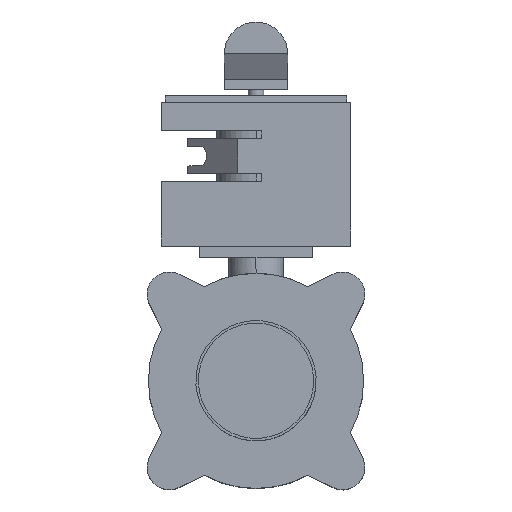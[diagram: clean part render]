
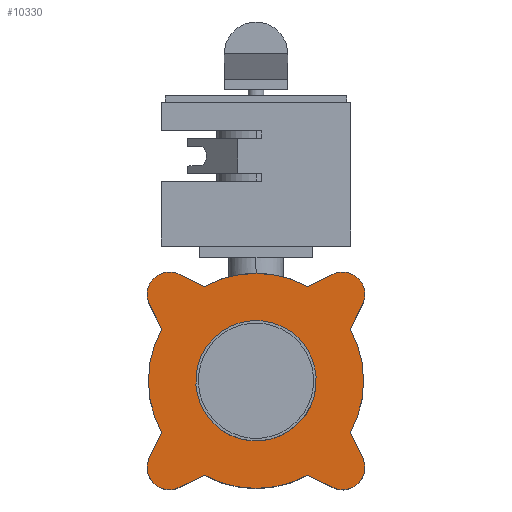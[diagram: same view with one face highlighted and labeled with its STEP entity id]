
A CAD part, top view. The second image highlights one B-rep face of the part: STEP entity #10330.
In plain terms, the highlighted planar face has unit normal (0, 0, 1) as drawn and (0, 1, 0) by its records, which use the part's own axes.
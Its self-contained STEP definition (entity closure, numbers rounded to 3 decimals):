
#1650=CARTESIAN_POINT('',(0.,13.,-41.492));
#1660=DIRECTION('',(-0.946,0.,0.326));
#1670=VECTOR('',#1660,1.);
#1680=LINE('',#1650,#1670);
#1690=CARTESIAN_POINT('',(-65.288,13.,-19.012));
#1700=VERTEX_POINT('',#1690);
#1710=CARTESIAN_POINT('',(-82.058,13.,-13.237));
#1720=VERTEX_POINT('',#1710);
#1730=EDGE_CURVE('',#1700,#1720,#1680,.T.);
#1960=CARTESIAN_POINT('',(77.5,13.,0.));
#1970=DIRECTION('',(0.,-1.,0.));
#1980=DIRECTION('',(0.,0.,-1.));
#1990=AXIS2_PLACEMENT_3D('',#1960,#1970,#1980);
#2000=CIRCLE('',#1990,14.);
#2010=CARTESIAN_POINT('',(82.058,13.,-13.237));
#2020=VERTEX_POINT('',#2010);
#2030=CARTESIAN_POINT('',(82.058,13.,13.237));
#2040=VERTEX_POINT('',#2030);
#2050=EDGE_CURVE('',#2020,#2040,#2000,.T.);
#2280=CARTESIAN_POINT('',(0.,13.,77.5));
#2290=DIRECTION('',(0.,-1.,0.));
#2300=DIRECTION('',(0.,0.,-1.));
#2310=AXIS2_PLACEMENT_3D('',#2280,#2290,#2300);
#2320=CIRCLE('',#2310,14.);
#2330=CARTESIAN_POINT('',(13.237,13.,82.058));
#2340=VERTEX_POINT('',#2330);
#2350=CARTESIAN_POINT('',(-13.237,13.,82.058));
#2360=VERTEX_POINT('',#2350);
#2370=EDGE_CURVE('',#2340,#2360,#2320,.T.);
#2600=CARTESIAN_POINT('',(-77.5,13.,0.));
#2610=DIRECTION('',(0.,-1.,0.));
#2620=DIRECTION('',(0.,0.,-1.));
#2630=AXIS2_PLACEMENT_3D('',#2600,#2610,#2620);
#2640=CIRCLE('',#2630,14.);
#2650=CARTESIAN_POINT('',(-82.058,13.,13.237));
#2660=VERTEX_POINT('',#2650);
#2670=EDGE_CURVE('',#2660,#1720,#2640,.T.);
#4130=CARTESIAN_POINT('',(0.,13.,-41.492));
#4140=DIRECTION('',(0.946,0.,0.326));
#4150=VECTOR('',#4140,1.);
#4160=LINE('',#4130,#4150);
#4170=CARTESIAN_POINT('',(65.288,13.,-19.012));
#4180=VERTEX_POINT('',#4170);
#4190=EDGE_CURVE('',#4180,#2020,#4160,.T.);
#4370=CARTESIAN_POINT('',(-41.492,13.,0.));
#4380=DIRECTION('',(0.326,0.,0.946));
#4390=VECTOR('',#4380,1.);
#4400=LINE('',#4370,#4390);
#4410=CARTESIAN_POINT('',(-19.012,13.,65.288));
#4420=VERTEX_POINT('',#4410);
#4430=EDGE_CURVE('',#4420,#2360,#4400,.T.);
#5010=CARTESIAN_POINT('',(0.,13.,41.492));
#5020=DIRECTION('',(0.946,0.,-0.326));
#5030=VECTOR('',#5020,1.);
#5040=LINE('',#5010,#5030);
#5050=CARTESIAN_POINT('',(65.288,13.,19.012));
#5060=VERTEX_POINT('',#5050);
#5070=EDGE_CURVE('',#5060,#2040,#5040,.T.);
#5250=CARTESIAN_POINT('',(0.,13.,41.492));
#5260=DIRECTION('',(0.946,0.,0.326));
#5270=VECTOR('',#5260,1.);
#5280=LINE('',#5250,#5270);
#5290=CARTESIAN_POINT('',(-65.288,13.,19.012));
#5300=VERTEX_POINT('',#5290);
#5310=EDGE_CURVE('',#2660,#5300,#5280,.T.);
#7500=CARTESIAN_POINT('',(-13.237,13.,-82.058));
#7510=VERTEX_POINT('',#7500);
#7590=CARTESIAN_POINT('',(13.237,13.,-82.058));
#7600=VERTEX_POINT('',#7590);
#7630=CARTESIAN_POINT('',(0.,13.,-77.5));
#7640=DIRECTION('',(0.,-1.,0.));
#7650=DIRECTION('',(0.,0.,-1.));
#7660=AXIS2_PLACEMENT_3D('',#7630,#7640,#7650);
#7670=CIRCLE('',#7660,14.);
#7680=EDGE_CURVE('',#7510,#7600,#7670,.T.);
#8120=CARTESIAN_POINT('',(41.492,13.,0.));
#8130=DIRECTION('',(0.326,0.,0.946));
#8140=VECTOR('',#8130,1.);
#8150=LINE('',#8120,#8140);
#8160=CARTESIAN_POINT('',(19.012,13.,-65.288));
#8170=VERTEX_POINT('',#8160);
#8180=EDGE_CURVE('',#7600,#8170,#8150,.T.);
#9060=CARTESIAN_POINT('',(0.,13.,0.));
#9070=DIRECTION('',(0.,-1.,0.));
#9080=DIRECTION('',(0.,0.,-1.));
#9090=AXIS2_PLACEMENT_3D('',#9060,#9070,#9080);
#9100=CIRCLE('',#9090,68.);
#9110=EDGE_CURVE('',#8170,#4180,#9100,.T.);
#9270=CARTESIAN_POINT('',(19.012,13.,65.288));
#9280=VERTEX_POINT('',#9270);
#9310=CARTESIAN_POINT('',(0.,13.,0.));
#9320=DIRECTION('',(0.,-1.,0.));
#9330=DIRECTION('',(0.,0.,-1.));
#9340=AXIS2_PLACEMENT_3D('',#9310,#9320,#9330);
#9350=CIRCLE('',#9340,68.);
#9360=EDGE_CURVE('',#5060,#9280,#9350,.T.);
#9490=CARTESIAN_POINT('',(0.,13.,0.));
#9500=DIRECTION('',(0.,-1.,0.));
#9510=DIRECTION('',(0.,0.,-1.));
#9520=AXIS2_PLACEMENT_3D('',#9490,#9500,#9510);
#9530=CIRCLE('',#9520,68.);
#9540=EDGE_CURVE('',#4420,#5300,#9530,.T.);
#9700=CARTESIAN_POINT('',(-19.012,13.,-65.288));
#9710=VERTEX_POINT('',#9700);
#9740=CARTESIAN_POINT('',(0.,13.,0.));
#9750=DIRECTION('',(0.,-1.,0.));
#9760=DIRECTION('',(0.,0.,-1.));
#9770=AXIS2_PLACEMENT_3D('',#9740,#9750,#9760);
#9780=CIRCLE('',#9770,68.);
#9790=EDGE_CURVE('',#1700,#9710,#9780,.T.);
#9850=CARTESIAN_POINT('',(0.,13.,0.));
#9860=DIRECTION('',(0.,1.,0.));
#9870=DIRECTION('',(0.,0.,1.));
#9880=AXIS2_PLACEMENT_3D('',#9850,#9860,#9870);
#9890=PLANE('',#9880);
#9900=ORIENTED_EDGE('',*,*,#2050,.F.);
#9910=ORIENTED_EDGE('',*,*,#5070,.T.);
#9920=ORIENTED_EDGE('',*,*,#9360,.F.);
#9930=CARTESIAN_POINT('',(41.492,13.,0.));
#9940=DIRECTION('',(0.326,0.,-0.946));
#9950=VECTOR('',#9940,1.);
#9960=LINE('',#9930,#9950);
#9970=EDGE_CURVE('',#2340,#9280,#9960,.T.);
#9980=ORIENTED_EDGE('',*,*,#9970,.T.);
#9990=ORIENTED_EDGE('',*,*,#2370,.F.);
#10000=ORIENTED_EDGE('',*,*,#4430,.T.);
#10010=ORIENTED_EDGE('',*,*,#9540,.F.);
#10020=ORIENTED_EDGE('',*,*,#5310,.T.);
#10030=ORIENTED_EDGE('',*,*,#2670,.F.);
#10040=ORIENTED_EDGE('',*,*,#1730,.T.);
#10050=ORIENTED_EDGE('',*,*,#9790,.F.);
#10060=CARTESIAN_POINT('',(-41.492,13.,0.));
#10070=DIRECTION('',(0.326,0.,-0.946));
#10080=VECTOR('',#10070,1.);
#10090=LINE('',#10060,#10080);
#10100=EDGE_CURVE('',#9710,#7510,#10090,.T.);
#10110=ORIENTED_EDGE('',*,*,#10100,.F.);
#10120=ORIENTED_EDGE('',*,*,#7680,.F.);
#10130=ORIENTED_EDGE('',*,*,#8180,.F.);
#10140=ORIENTED_EDGE('',*,*,#9110,.F.);
#10150=ORIENTED_EDGE('',*,*,#4190,.F.);
#10160=EDGE_LOOP('',(#10150,#10140,#10130,#10120,#10110,#10050,#10040,
#10030,#10020,#10010,#10000,#9990,#9980,#9920,#9910,#9900));
#10170=FACE_OUTER_BOUND('',#10160,.T.);
#10180=CARTESIAN_POINT('',(0.,13.,
0.));
#10190=DIRECTION('',(0.,1.,0.));
#10200=DIRECTION('',(-0.859,0.,
-0.512));
#10210=AXIS2_PLACEMENT_3D('',#10180,#10190,#10200);
#10220=CIRCLE('',#10210,38.05);
#10230=CARTESIAN_POINT('',(-32.688,13.,
-19.475));
#10240=VERTEX_POINT('',#10230);
#10250=CARTESIAN_POINT('',(32.688,13.,19.475));
#10260=VERTEX_POINT('',#10250);
#10270=EDGE_CURVE('',#10240,#10260,#10220,.T.);
#10280=ORIENTED_EDGE('',*,*,#10270,.F.);
#10290=EDGE_CURVE('',#10260,#10240,#10220,.T.);
#10300=ORIENTED_EDGE('',*,*,#10290,.F.);
#10310=EDGE_LOOP('',(#10300,#10280));
#10320=FACE_BOUND('',#10310,.T.);
#10330=ADVANCED_FACE('',(#10170,#10320),#9890,.T.);
